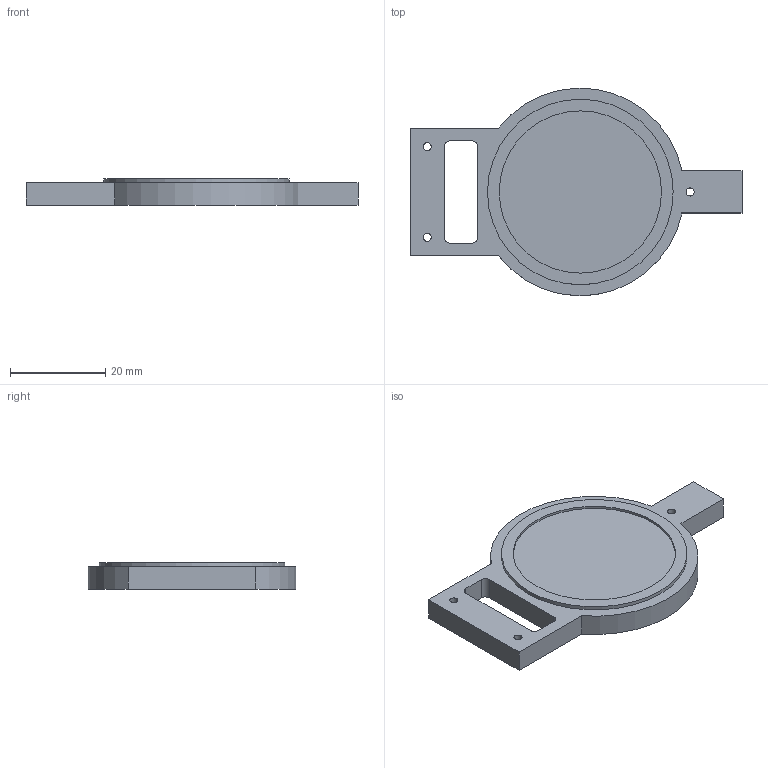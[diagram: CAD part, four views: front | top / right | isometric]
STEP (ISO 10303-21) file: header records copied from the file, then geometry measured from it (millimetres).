
FILE_DESCRIPTION(('Open CASCADE Model'),'2;1');
FILE_NAME('Open CASCADE Shape Model','2026-08-29T07:31:46',('Author'),( 'Open CASCADE'),'Open CASCADE STEP processor 7.9','build123d', 'Unknown');
FILE_SCHEMA(('AUTOMOTIVE_DESIGN { 1 0 10303 214 1 1 1 1 }'));
Length unit declared in the file: millimetre
Products named in the file (2): =>[0:1:1:2]; COMPOUND
Assembly tree (1 placements, depth 2):
  =>[0:1:1:2]
    COMPOUND
Bounding box: 69.57 x 43.48 x 5.5 mm (x, y, z)
Volume: 9189.5 mm3; surface area: 5113.4 mm2
Topology: 1 solids, 1 shells, 25 faces, 63 edges, 42 vertices
Faces by surface type: plane 14, cylinder 11
Full cylindrical faces by diameter (mm): 1.7 x3, 34 x1, 38.9 x1
Entity records: 1630 total; most frequent: CARTESIAN_POINT 322, DIRECTION 241, LINE 129, VECTOR 129, ORIENTED_EDGE 126, PCURVE 126, DEFINITIONAL_REPRESENTATION 126, EDGE_CURVE 63
